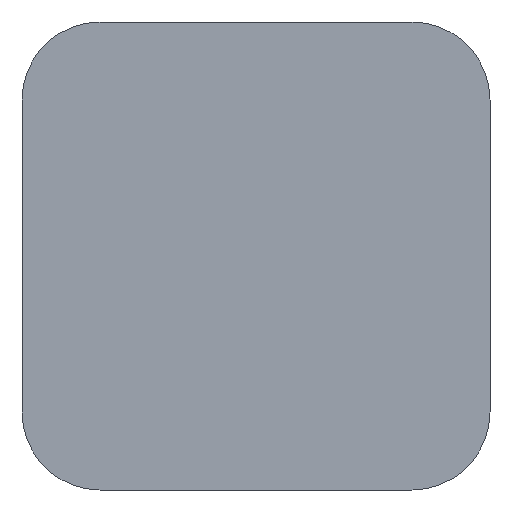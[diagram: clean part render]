
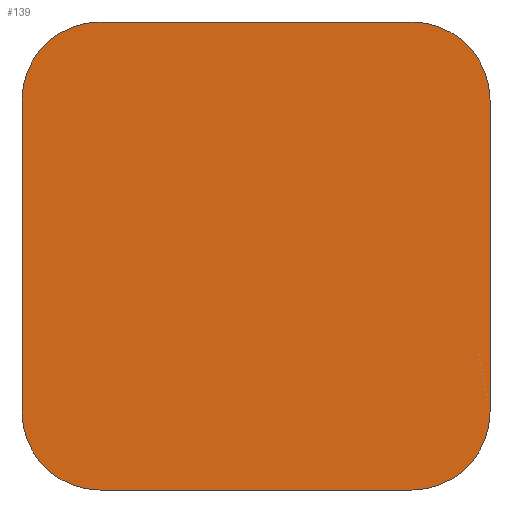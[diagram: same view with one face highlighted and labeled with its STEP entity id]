
A CAD part, front view. The second image highlights one B-rep face of the part: STEP entity #139.
In plain terms, the highlighted planar face has unit normal (0, -1, 0).
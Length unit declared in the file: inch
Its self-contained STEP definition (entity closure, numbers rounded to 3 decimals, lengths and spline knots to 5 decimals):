
#1 = DIRECTION ( 'NONE',  ( 0., -1., 0. ) ) ;
#5 = CIRCLE ( 'NONE', #175, 0.5 ) ;
#8 = CARTESIAN_POINT ( 'NONE',  ( 0., 0., 0. ) ) ;
#41 = LINE ( 'NONE', #8, #538 ) ;
#42 = DIRECTION ( 'NONE',  ( 0., 0., -1. ) ) ;
#44 = ORIENTED_EDGE ( 'NONE', *, *, #92, .F. ) ;
#48 = DIRECTION ( 'NONE',  ( 0., 0., -1. ) ) ;
#61 = CARTESIAN_POINT ( 'NONE',  ( 0.5, 0., -0.5 ) ) ;
#76 = ORIENTED_EDGE ( 'NONE', *, *, #310, .T. ) ;
#86 = CARTESIAN_POINT ( 'NONE',  ( 0.5, 0., -2.5 ) ) ;
#92 = EDGE_CURVE ( 'NONE', #199, #154, #520, .T. ) ;
#96 = ORIENTED_EDGE ( 'NONE', *, *, #469, .T. ) ;
#98 = CARTESIAN_POINT ( 'NONE',  ( 2.5, 0., -0.5 ) ) ;
#108 = EDGE_CURVE ( 'NONE', #285, #354, #41, .T. ) ;
#119 = CARTESIAN_POINT ( 'NONE',  ( 2.5, 0., 0. ) ) ;
#125 = DIRECTION ( 'NONE',  ( 0., -1., 0. ) ) ;
#126 = FACE_OUTER_BOUND ( 'NONE', #212, .T. ) ;
#139 = ADVANCED_FACE ( 'NONE', ( #126 ), #302, .T. ) ;
#142 = ORIENTED_EDGE ( 'NONE', *, *, #108, .F. ) ;
#153 = CARTESIAN_POINT ( 'NONE',  ( 0., 0., -3. ) ) ;
#154 = VERTEX_POINT ( 'NONE', #174 ) ;
#165 = CARTESIAN_POINT ( 'NONE',  ( 0., 0., -0.5 ) ) ;
#173 = DIRECTION ( 'NONE',  ( 0., 0., -1. ) ) ;
#174 = CARTESIAN_POINT ( 'NONE',  ( 3., 0., -2.5 ) ) ;
#175 = AXIS2_PLACEMENT_3D ( 'NONE', #61, #555, #409 ) ;
#199 = VERTEX_POINT ( 'NONE', #406 ) ;
#209 = VECTOR ( 'NONE', #435, 39.37008 ) ;
#211 = CARTESIAN_POINT ( 'NONE',  ( 2.5, 0., -3. ) ) ;
#212 = EDGE_LOOP ( 'NONE', ( #403, #484, #44, #96, #142, #438, #557, #76 ) ) ;
#216 = CARTESIAN_POINT ( 'NONE',  ( 0., 0., 0. ) ) ;
#227 = LINE ( 'NONE', #322, #369 ) ;
#260 = AXIS2_PLACEMENT_3D ( 'NONE', #216, #1, #173 ) ;
#268 = DIRECTION ( 'NONE',  ( 0., -1., 0. ) ) ;
#285 = VERTEX_POINT ( 'NONE', #573 ) ;
#302 = PLANE ( 'NONE',  #260 ) ;
#310 = EDGE_CURVE ( 'NONE', #423, #481, #564, .T. ) ;
#322 = CARTESIAN_POINT ( 'NONE',  ( 0., 0., 0. ) ) ;
#328 = VERTEX_POINT ( 'NONE', #165 ) ;
#354 = VERTEX_POINT ( 'NONE', #119 ) ;
#367 = DIRECTION ( 'NONE',  ( -1., 0., 0. ) ) ;
#369 = VECTOR ( 'NONE', #413, 39.37008 ) ;
#375 = VERTEX_POINT ( 'NONE', #211 ) ;
#401 = CARTESIAN_POINT ( 'NONE',  ( 0., 0., -2.5 ) ) ;
#403 = ORIENTED_EDGE ( 'NONE', *, *, #539, .F. ) ;
#406 = CARTESIAN_POINT ( 'NONE',  ( 3., 0., -0.5 ) ) ;
#409 = DIRECTION ( 'NONE',  ( 0., 0., -1. ) ) ;
#413 = DIRECTION ( 'NONE',  ( 0., 0., 1. ) ) ;
#422 = VECTOR ( 'NONE', #367, 39.37008 ) ;
#423 = VERTEX_POINT ( 'NONE', #401 ) ;
#435 = DIRECTION ( 'NONE',  ( 0., 0., -1. ) ) ;
#437 = DIRECTION ( 'NONE',  ( 0., 0., -1. ) ) ;
#438 = ORIENTED_EDGE ( 'NONE', *, *, #514, .T. ) ;
#441 = DIRECTION ( 'NONE',  ( 1., 0., 0. ) ) ;
#445 = DIRECTION ( 'NONE',  ( 0., -1., 0. ) ) ;
#468 = EDGE_CURVE ( 'NONE', #375, #154, #487, .T. ) ;
#469 = EDGE_CURVE ( 'NONE', #199, #354, #568, .T. ) ;
#475 = CARTESIAN_POINT ( 'NONE',  ( 3., 0., 0. ) ) ;
#481 = VERTEX_POINT ( 'NONE', #492 ) ;
#484 = ORIENTED_EDGE ( 'NONE', *, *, #468, .T. ) ;
#487 = CIRCLE ( 'NONE', #517, 0.5 ) ;
#490 = EDGE_CURVE ( 'NONE', #423, #328, #227, .T. ) ;
#492 = CARTESIAN_POINT ( 'NONE',  ( 0.5, 0., -3. ) ) ;
#500 = LINE ( 'NONE', #153, #422 ) ;
#514 = EDGE_CURVE ( 'NONE', #285, #328, #5, .T. ) ;
#517 = AXIS2_PLACEMENT_3D ( 'NONE', #531, #268, #437 ) ;
#520 = LINE ( 'NONE', #475, #209 ) ;
#531 = CARTESIAN_POINT ( 'NONE',  ( 2.5, 0., -2.5 ) ) ;
#535 = AXIS2_PLACEMENT_3D ( 'NONE', #86, #125, #42 ) ;
#538 = VECTOR ( 'NONE', #441, 39.37008 ) ;
#539 = EDGE_CURVE ( 'NONE', #375, #481, #500, .T. ) ;
#548 = AXIS2_PLACEMENT_3D ( 'NONE', #98, #445, #48 ) ;
#555 = DIRECTION ( 'NONE',  ( 0., -1., 0. ) ) ;
#557 = ORIENTED_EDGE ( 'NONE', *, *, #490, .F. ) ;
#564 = CIRCLE ( 'NONE', #535, 0.5 ) ;
#568 = CIRCLE ( 'NONE', #548, 0.5 ) ;
#573 = CARTESIAN_POINT ( 'NONE',  ( 0.5, 0., 0. ) ) ;
